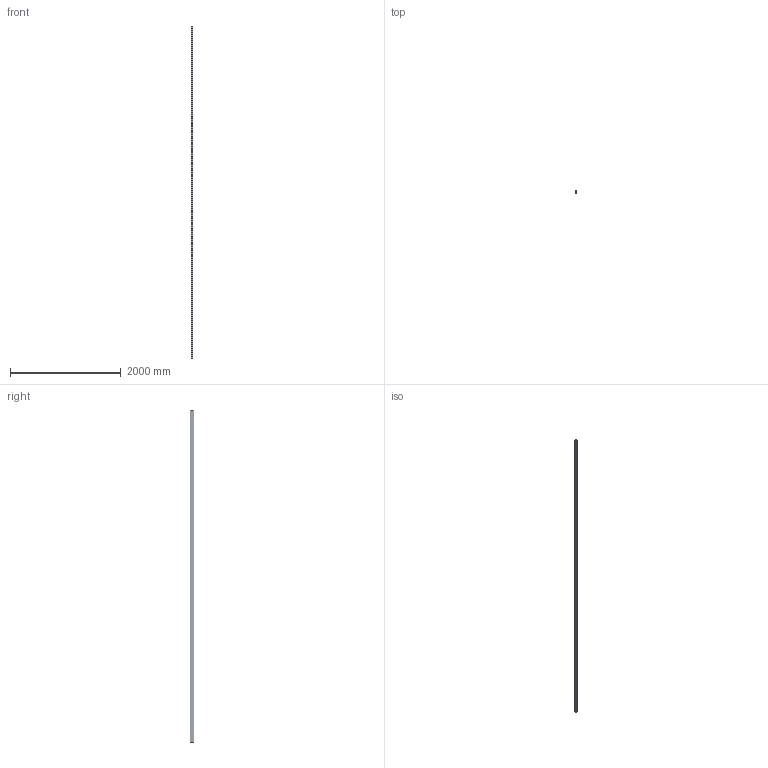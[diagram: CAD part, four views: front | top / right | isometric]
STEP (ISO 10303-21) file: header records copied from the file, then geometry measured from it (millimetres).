
FILE_DESCRIPTION (( 'STEP AP214' ), '1' );
FILE_NAME ('Bendur Profil.STEP', '2024-09-23T12:35:17', ( '' ), ( '' ), 'SwSTEP 2.0', 'SolidWorks 2023', '' );
FILE_SCHEMA (( 'AUTOMOTIVE_DESIGN' ));
Length unit declared in the file: millimetre
Products named in the file (1): Bendur Profil
Bounding box: 29.89 x 60 x 6000 mm (x, y, z)
Volume: 2839707.4 mm3; surface area: 2564135.4 mm2
Topology: 1 solids, 1 shells, 30 faces, 84 edges, 56 vertices
Faces by surface type: plane 26, cylinder 4
Entity records: 983 total; most frequent: CARTESIAN_POINT 171, ORIENTED_EDGE 168, DIRECTION 154, EDGE_CURVE 84, LINE 76, VECTOR 76, VERTEX_POINT 56, AXIS2_PLACEMENT_3D 39
